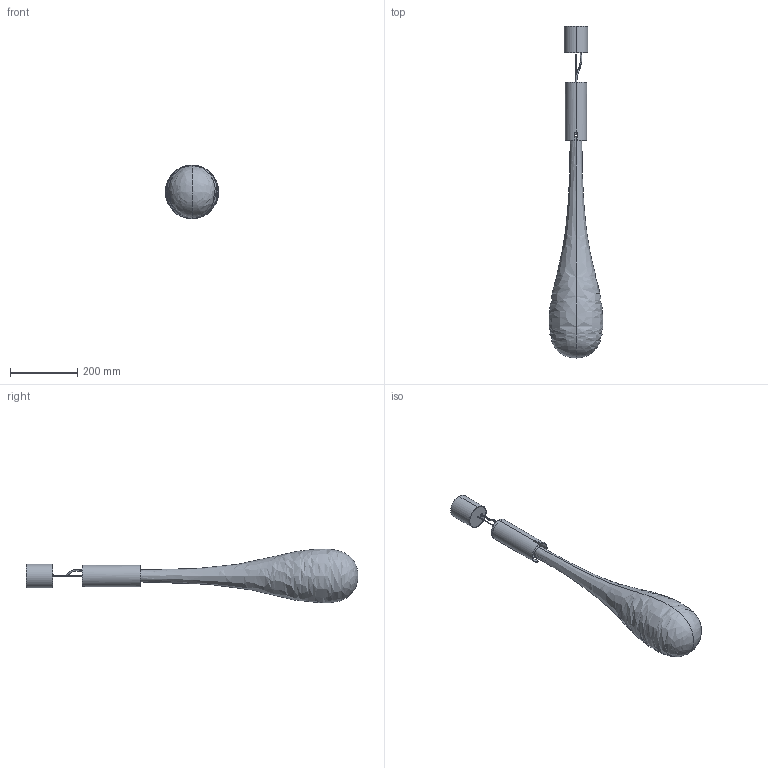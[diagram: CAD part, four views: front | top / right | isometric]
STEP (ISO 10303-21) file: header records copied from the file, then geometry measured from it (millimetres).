
FILE_DESCRIPTION (( 'STEP AP203' ), '1' );
FILE_NAME ('GLO_S_STEP.STEP', '2016-01-13T11:12:24', ( 'admin' ), ( '' ), 'SwSTEP 2.0', 'SolidWorks 2015', '' );
FILE_SCHEMA (( 'CONFIG_CONTROL_DESIGN' ));
Length unit declared in the file: millimetre
Products named in the file (2): GLO_S_STEP
Bounding box: 160.07 x 985.16 x 159.92 mm (x, y, z)
Volume: 994449.8 mm3; surface area: 484216.7 mm2
Topology: 5 solids, 5 shells, 87 faces, 232 edges, 150 vertices
Faces by surface type: cylinder 60, plane 17, bspline 10
Entity records: 4739 total; most frequent: CARTESIAN_POINT 2385, ORIENTED_EDGE 456, DIRECTION 452, EDGE_CURVE 228, AXIS2_PLACEMENT_3D 187, VERTEX_POINT 150, EDGE_LOOP 128, CIRCLE 108
